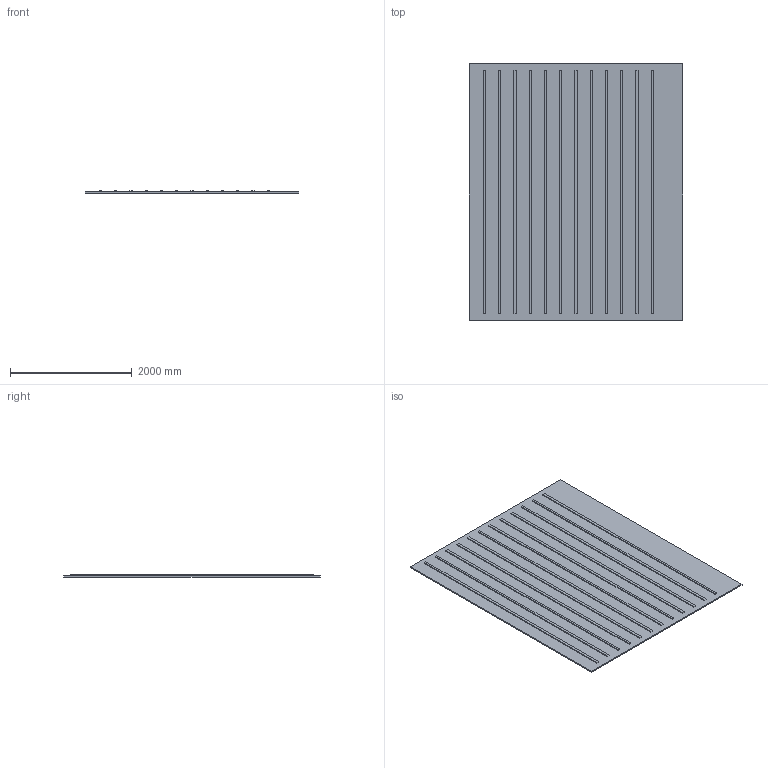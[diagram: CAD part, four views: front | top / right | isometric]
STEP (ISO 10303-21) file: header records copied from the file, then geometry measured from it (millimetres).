
FILE_DESCRIPTION (( 'STEP AP203' ), '1' );
FILE_NAME ('CL_04_Thermal_Radiator_Wing.STEP', '2026-10-28T18:34:10', ( '' ), ( '' ), 'SwSTEP 2.0', 'SolidWorks 2026', '' );
FILE_SCHEMA (( 'CONFIG_CONTROL_DESIGN' ));
Length unit declared in the file: inch
Products named in the file (1): CL_04_Thermal_Radiator_Wing
Bounding box: 3500 x 4200 x 35 mm (x, y, z)
Volume: 322800000 mm3; surface area: 31162400 mm2
Topology: 1 solids, 1 shells, 66 faces, 156 edges, 104 vertices
Faces by surface type: plane 66
Entity records: 1939 total; most frequent: CARTESIAN_POINT 327, ORIENTED_EDGE 312, DIRECTION 290, LINE 156, EDGE_CURVE 156, VECTOR 156, VERTEX_POINT 104, EDGE_LOOP 78
